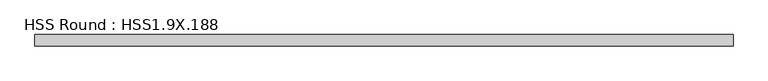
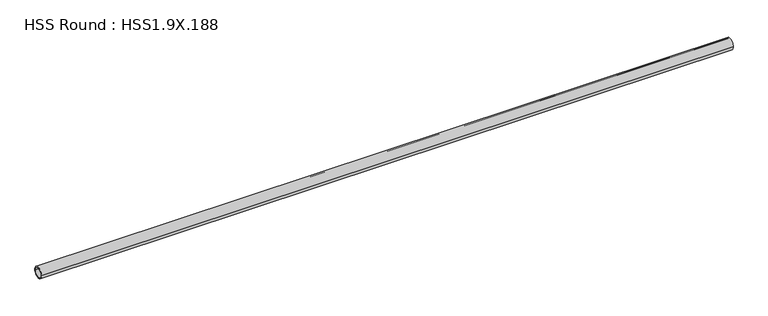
"""IFC4 building model written with IfcOpenShell, lengths in millimetres: member geometry, HSS Round : HSS1.9X.188."""

import ifcopenshell
import ifcopenshell.guid

model = None  # the IFC model being written
_history = None  # IfcOwnerHistory: only IFC2X3 demands one
_inside = {}  # id of a spatial element -> (the spatial element, [elements in it])
_under = {}  # id of a project, library or spatial element -> (it, [spatial elements below it])
_declared = {}  # id of a project -> (the project, [libraries it declares])
_typed = {}  # id of a type object -> (the type object, [elements of that type])
_made_of = {}  # id of a material, layer set ... -> (it, [elements and type objects made of it])


def new_model(schema):
    """Start an empty IFC model of exactly this schema.

    Asked for "IFC4X3", IfcOpenShell would pick the latest addendum, in which some entities
    have other attributes; the version numbers below select the first issue.
    IFC2X3 requires an IfcOwnerHistory on every rooted entity: one is made here for all.
    """
    global model, _history
    if schema == "IFC4X3":
        model = ifcopenshell.file(schema_version=(4, 3, 0, 0))
    else:
        model = ifcopenshell.file(schema=schema)
    _inside.clear()
    _under.clear()
    _declared.clear()
    _typed.clear()
    _made_of.clear()
    _history = None
    if model.schema == "IFC2X3":
        org = make("IfcOrganization", Name="unknown")
        user = make(
            "IfcPersonAndOrganization",
            ThePerson=make("IfcPerson", FamilyName="unknown"),
            TheOrganization=org,
        )
        app = make(
            "IfcApplication",
            ApplicationDeveloper=org,
            Version="unknown",
            ApplicationFullName="unknown",
            ApplicationIdentifier="unknown",
        )
        _history = make(
            "IfcOwnerHistory",
            OwningUser=user,
            OwningApplication=app,
            ChangeAction="ADDED",
            CreationDate=0,
        )
    return model


def make(cls, **values):
    """One entity of the class cls with the attributes given. An attribute that is None is left unset."""
    return model.create_entity(
        cls, **{name: value for name, value in values.items() if value is not None}
    )


def rooted(cls, **values):
    """An entity with a GlobalId (a new one), such as an element, a storey or a relation."""
    return make(cls, GlobalId=ifcopenshell.guid.new(), OwnerHistory=_history, **values)


def si_unit(unit_type, name, prefix=None):
    """IfcSIUnit, for example si_unit("LENGTHUNIT", "METRE", prefix="MILLI")."""
    return make("IfcSIUnit", UnitType=unit_type, Prefix=prefix, Name=name)


def assignment(units):
    """IfcUnitAssignment: the units of a project."""
    return None if units is None else make("IfcUnitAssignment", Units=units)


def point(xyz):
    """IfcCartesianPoint."""
    return None if xyz is None else make("IfcCartesianPoint", Coordinates=xyz)


def direction(xyz):
    """IfcDirection."""
    return None if xyz is None else make("IfcDirection", DirectionRatios=xyz)


def frame(location, z_axis=None, x_axis=None):
    """IfcAxis2Placement3D, a coordinate frame: its origin and axes. An axis left out is left unset."""
    return make(
        "IfcAxis2Placement3D",
        Location=point(location),
        Axis=direction(z_axis),
        RefDirection=direction(x_axis),
    )


def frame_2d(location, x_axis=None):
    """IfcAxis2Placement2D, a coordinate frame in the plane: its origin and x axis."""
    return make(
        "IfcAxis2Placement2D", Location=point(location), RefDirection=direction(x_axis)
    )


def origin():
    """The frame at (0, 0, 0) with its axes left unset."""
    return frame((0.0, 0.0, 0.0))


def origin_2d():
    """The frame at (0, 0) in the plane with its x axis left unset."""
    return frame_2d((0.0, 0.0))


def place(relative_to, where):
    """IfcLocalPlacement: puts the frame where relative to a parent placement (None: the world)."""
    return make(
        "IfcLocalPlacement", PlacementRelTo=relative_to, RelativePlacement=where
    )


def context(
    kind, dimensions, precision=None, world=None, true_north=None, identifier=None
):
    """IfcGeometricRepresentationContext, for example the 3D "Model" context."""
    return make(
        "IfcGeometricRepresentationContext",
        ContextIdentifier=identifier,
        ContextType=kind,
        CoordinateSpaceDimension=dimensions,
        Precision=precision,
        WorldCoordinateSystem=world,
        TrueNorth=true_north,
    )


def project(units=None, contexts=None):
    """IfcProject with its units and contexts."""
    return rooted(
        "IfcProject",
        Name="project",
        RepresentationContexts=contexts,
        UnitsInContext=assignment(units),
    )


def spatial(cls, under=None, at=None, **own):
    """A site, building, storey or space (cls), placed at a placement, below another one or the project."""
    s = rooted(cls, ObjectPlacement=at, **own)
    if under is not None:
        _under.setdefault(under.id(), (under, []))[1].append(s)
    return s


def circle_curve(where, radius):
    """IfcCircle in the frame where."""
    return make("IfcCircle", Position=where, Radius=radius)


def trimmed(basis, trim1, trim2, sense, master):
    """IfcTrimmedCurve: the piece of a basis curve between two trims."""
    return make(
        "IfcTrimmedCurve",
        BasisCurve=basis,
        Trim1=trim1,
        Trim2=trim2,
        SenseAgreement=sense,
        MasterRepresentation=master,
    )


def segment(curve, same_sense, transition):
    """IfcCompositeCurveSegment."""
    return make(
        "IfcCompositeCurveSegment",
        Transition=transition,
        SameSense=same_sense,
        ParentCurve=curve,
    )


def composite_curve(segments, self_intersect=None):
    """IfcCompositeCurve: segments joined end to end."""
    return make("IfcCompositeCurve", Segments=segments, SelfIntersect=self_intersect)


def outline(outer, holes=None, kind="AREA"):
    """IfcArbitraryClosedProfileDef: a profile drawn as a closed curve; with holes, ...WithVoids."""
    if holes is None:
        return make("IfcArbitraryClosedProfileDef", ProfileType=kind, OuterCurve=outer)
    return make(
        "IfcArbitraryProfileDefWithVoids",
        ProfileType=kind,
        OuterCurve=outer,
        InnerCurves=holes,
    )


def extrude(swept, where, along, depth):
    """IfcExtrudedAreaSolid: the profile swept, set in the frame where, extruded along a direction by depth."""
    return make(
        "IfcExtrudedAreaSolid",
        SweptArea=swept,
        Position=where,
        ExtrudedDirection=direction(along),
        Depth=depth,
    )


def shape(context_of_items, identifier, shape_type, items):
    """IfcShapeRepresentation: the items that make up one representation, for example the "Body"."""
    return make(
        "IfcShapeRepresentation",
        ContextOfItems=context_of_items,
        RepresentationIdentifier=identifier,
        RepresentationType=shape_type,
        Items=items,
    )


def source(mapping_origin, context_of_items, identifier, shape_type, items):
    """IfcRepresentationMap: a shape defined once, which mapped items show again and again."""
    return make(
        "IfcRepresentationMap",
        MappingOrigin=mapping_origin,
        MappedRepresentation=shape(context_of_items, identifier, shape_type, items),
    )


def transform(
    local_origin,
    x_axis=None,
    y_axis=None,
    z_axis=None,
    scale=None,
    scale2=None,
    scale3=None,
    uniform=True,
):
    """IfcCartesianTransformationOperator3D, or its non-uniform kind. x_axis, y_axis, z_axis: its Axis1, 2, 3."""
    if uniform:
        return make(
            "IfcCartesianTransformationOperator3D",
            Axis1=direction(x_axis),
            Axis2=direction(y_axis),
            LocalOrigin=point(local_origin),
            Scale=scale,
            Axis3=direction(z_axis),
        )
    return make(
        "IfcCartesianTransformationOperator3DnonUniform",
        Axis1=direction(x_axis),
        Axis2=direction(y_axis),
        LocalOrigin=point(local_origin),
        Scale=scale,
        Axis3=direction(z_axis),
        Scale2=scale2,
        Scale3=scale3,
    )


def mapped(mapping_source, mapping_target):
    """IfcMappedItem: shows the shape of a source again, moved by a transform."""
    return make(
        "IfcMappedItem", MappingSource=mapping_source, MappingTarget=mapping_target
    )


def made_of(thing, what):
    """Note that an element or type object is made of a material, layer set ...; save() writes the relation."""
    if what is not None:
        _made_of.setdefault(what.id(), (what, []))[1].append(thing)
    return thing


def element(
    cls,
    number,
    at=None,
    inside=None,
    cuts=None,
    type_object=None,
    material=None,
    context=None,
    identifier="Body",
    shape_type=None,
    held_by="IfcProductDefinitionShape",
    body=None,
    shapes=None,
    **own,
):
    """One element of the class cls, such as IfcWall. Its Tag is "e" and its number.

    at: its placement. inside: the storey or other place that contains it. cuts: it is an
    opening in that element (IfcRelVoidsElement). A single representation is given by context,
    identifier, shape_type and body (its items); several are given by shapes. held_by: the class
    of the entity that holds the representations. save() writes the other relations.
    """
    e = rooted(cls, Tag="e%d" % number, ObjectPlacement=at, **own)
    if body is not None:
        shapes = [shape(context, identifier, shape_type, body)]
    if shapes is not None:
        e.Representation = make(held_by, Representations=shapes)
    if inside is not None:
        _inside.setdefault(inside.id(), (inside, []))[1].append(e)
    if cuts is not None:
        rooted(
            "IfcRelVoidsElement", RelatingBuildingElement=cuts, RelatedOpeningElement=e
        )
    if type_object is not None:
        _typed.setdefault(type_object.id(), (type_object, []))[1].append(e)
    return made_of(e, material)


def aggregate(whole, parts):
    """IfcRelAggregates: a whole, such as a stair, and the parts it consists of."""
    return rooted("IfcRelAggregates", RelatingObject=whole, RelatedObjects=parts)


def save(model, path):
    """Write the relations noted so far, then the file.

    IfcRelAggregates (storeys below a building ...), IfcRelContainedInSpatialStructure (elements
    in a storey), IfcRelDefinesByType, IfcRelAssociatesMaterial and IfcRelDeclares: one each for
    every whole, place, type object, material and project.
    """
    for whole, parts in _under.values():
        aggregate(whole, parts)
    for where, things in _inside.values():
        rooted(
            "IfcRelContainedInSpatialStructure",
            RelatedElements=things,
            RelatingStructure=where,
        )
    for kind, things in _typed.values():
        rooted("IfcRelDefinesByType", RelatedObjects=things, RelatingType=kind)
    for what, things in _made_of.values():
        rooted("IfcRelAssociatesMaterial", RelatedObjects=things, RelatingMaterial=what)
    for by, libraries in _declared.values():
        rooted("IfcRelDeclares", RelatingContext=by, RelatedDefinitions=libraries)
    model.write(path)


def hss_round_hss1_9x_188_45c71154(model_context):
    return source(origin(), model_context, "Body", "SweptSolid", [
        extrude(outline(composite_curve([segment(trimmed(circle_curve(origin_2d(), 24.13), [point((-24.13, 0.0))], [point((24.13, 0.0))], False, "CARTESIAN"), True, "CONTINUOUS"), segment(trimmed(circle_curve(origin_2d(), 24.13), [point((24.13, 0.0))], [point((-24.13, 0.0))], False, "CARTESIAN"), True, "CONTINUOUS")], self_intersect=False), holes=[composite_curve([segment(trimmed(circle_curve(origin_2d(), 19.3548), [point((19.3548, 0.0))], [point((-19.3548, 0.0))], True, "CARTESIAN"), True, "CONTINUOUS"), segment(trimmed(circle_curve(origin_2d(), 19.3548), [point((-19.3548, 0.0))], [point((19.3548, 0.0))], True, "CARTESIAN"), True, "CONTINUOUS")], self_intersect=False)]), frame((-1518.0276809, 0.0, 0.0), z_axis=(1.0, 0.0, 0.0), x_axis=(0.0, 1.0, 0.0)), (0.0, 0.0, 1.0), 2964.3296588),
    ])


if __name__ == "__main__":
    model = new_model("IFC4")
    model_context = context("Model", 3, world=origin())
    ifc_project = project(units=[si_unit("LENGTHUNIT", "METRE", prefix="MILLI")], contexts=[model_context])
    site = spatial("IfcSite", under=ifc_project)
    building = spatial("IfcBuilding", under=site)
    placement = place(None, origin())
    hss_round_hss1_9x_188_shape = hss_round_hss1_9x_188_45c71154(model_context)
    element("IfcMember", 1, ObjectType="HSS Round : HSS1.9X.188", at=placement, inside=building, context=model_context, shape_type="MappedRepresentation", body=[
        mapped(hss_round_hss1_9x_188_shape, transform((0.0, 0.0, 0.0), x_axis=(1.0, 0.0, 0.0), y_axis=(0.0, 1.0, 0.0), z_axis=(0.0, 0.0, 1.0))),
    ])
    save(model, "model.ifc")
